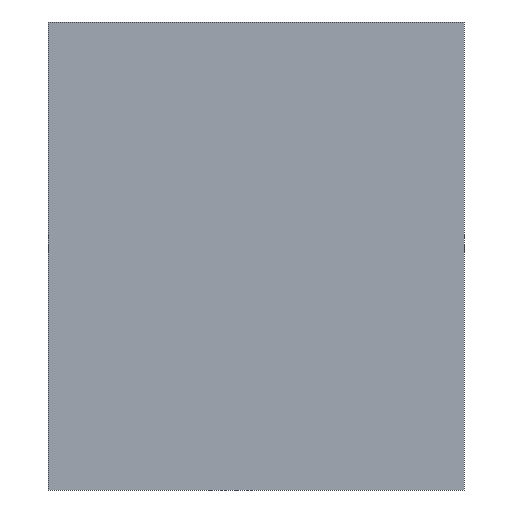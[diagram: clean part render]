
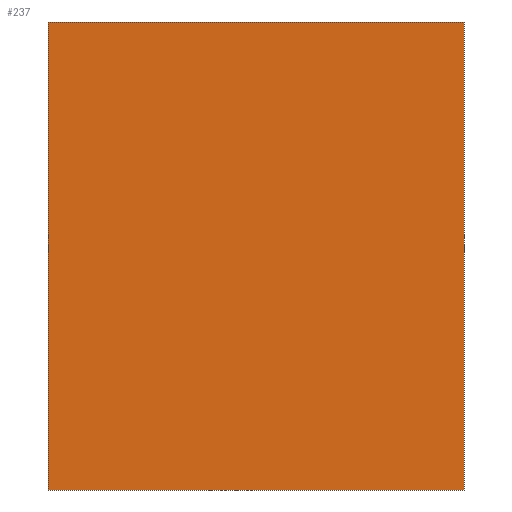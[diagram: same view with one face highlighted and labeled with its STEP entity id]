
A CAD part, front view. The second image highlights one B-rep face of the part: STEP entity #237.
In plain terms, the highlighted planar face has unit normal (0, -1, 0).
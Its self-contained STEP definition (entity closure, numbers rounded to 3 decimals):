
#21 = EDGE_CURVE('',#22,#24,#26,.T.);
#22 = VERTEX_POINT('',#23);
#23 = CARTESIAN_POINT('',(-186.,-171.913,18.));
#24 = VERTEX_POINT('',#25);
#25 = CARTESIAN_POINT('',(-186.,-171.913,36.));
#26 = SURFACE_CURVE('',#27,(#31,#43),.PCURVE_S1.);
#27 = LINE('',#28,#29);
#28 = CARTESIAN_POINT('',(-186.,-171.913,18.));
#29 = VECTOR('',#30,1.);
#30 = DIRECTION('',(0.,0.,1.));
#31 = PCURVE('',#32,#37);
#32 = PLANE('',#33);
#33 = AXIS2_PLACEMENT_3D('',#34,#35,#36);
#34 = CARTESIAN_POINT('',(-186.,-171.913,18.));
#35 = DIRECTION('',(1.,0.,-0.));
#36 = DIRECTION('',(0.,0.,1.));
#37 = DEFINITIONAL_REPRESENTATION('',(#38),#42);
#38 = LINE('',#39,#40);
#39 = CARTESIAN_POINT('',(0.,0.));
#40 = VECTOR('',#41,1.);
#41 = DIRECTION('',(1.,0.));
#42 = ( GEOMETRIC_REPRESENTATION_CONTEXT(2) 
PARAMETRIC_REPRESENTATION_CONTEXT() REPRESENTATION_CONTEXT('2D SPACE',''
  ) );
#43 = PCURVE('',#44,#49);
#44 = PLANE('',#45);
#45 = AXIS2_PLACEMENT_3D('',#46,#47,#48);
#46 = CARTESIAN_POINT('',(-186.,-171.913,18.));
#47 = DIRECTION('',(-0.,1.,0.));
#48 = DIRECTION('',(0.,0.,1.));
#49 = DEFINITIONAL_REPRESENTATION('',(#50),#54);
#50 = LINE('',#51,#52);
#51 = CARTESIAN_POINT('',(0.,0.));
#52 = VECTOR('',#53,1.);
#53 = DIRECTION('',(1.,0.));
#54 = ( GEOMETRIC_REPRESENTATION_CONTEXT(2) 
PARAMETRIC_REPRESENTATION_CONTEXT() REPRESENTATION_CONTEXT('2D SPACE',''
  ) );
#72 = PLANE('',#73);
#73 = AXIS2_PLACEMENT_3D('',#74,#75,#76);
#74 = CARTESIAN_POINT('',(-186.,-171.913,18.));
#75 = DIRECTION('',(0.,0.,1.));
#76 = DIRECTION('',(1.,0.,-0.));
#126 = PLANE('',#127);
#127 = AXIS2_PLACEMENT_3D('',#128,#129,#130);
#128 = CARTESIAN_POINT('',(-186.,-171.913,36.));
#129 = DIRECTION('',(0.,0.,1.));
#130 = DIRECTION('',(1.,0.,-0.));
#141 = EDGE_CURVE('',#142,#144,#146,.T.);
#142 = VERTEX_POINT('',#143);
#143 = CARTESIAN_POINT('',(-170.,-171.913,18.));
#144 = VERTEX_POINT('',#145);
#145 = CARTESIAN_POINT('',(-170.,-171.913,36.));
#146 = SURFACE_CURVE('',#147,(#151,#163),.PCURVE_S1.);
#147 = LINE('',#148,#149);
#148 = CARTESIAN_POINT('',(-170.,-171.913,18.));
#149 = VECTOR('',#150,1.);
#150 = DIRECTION('',(0.,0.,1.));
#151 = PCURVE('',#152,#157);
#152 = PLANE('',#153);
#153 = AXIS2_PLACEMENT_3D('',#154,#155,#156);
#154 = CARTESIAN_POINT('',(-170.,-171.913,18.));
#155 = DIRECTION('',(1.,0.,-0.));
#156 = DIRECTION('',(0.,0.,1.));
#157 = DEFINITIONAL_REPRESENTATION('',(#158),#162);
#158 = LINE('',#159,#160);
#159 = CARTESIAN_POINT('',(0.,0.));
#160 = VECTOR('',#161,1.);
#161 = DIRECTION('',(1.,0.));
#162 = ( GEOMETRIC_REPRESENTATION_CONTEXT(2) 
PARAMETRIC_REPRESENTATION_CONTEXT() REPRESENTATION_CONTEXT('2D SPACE',''
  ) );
#163 = PCURVE('',#44,#164);
#164 = DEFINITIONAL_REPRESENTATION('',(#165),#169);
#165 = LINE('',#166,#167);
#166 = CARTESIAN_POINT('',(0.,16.));
#167 = VECTOR('',#168,1.);
#168 = DIRECTION('',(1.,0.));
#169 = ( GEOMETRIC_REPRESENTATION_CONTEXT(2) 
PARAMETRIC_REPRESENTATION_CONTEXT() REPRESENTATION_CONTEXT('2D SPACE',''
  ) );
#237 = ADVANCED_FACE('',(#238),#44,.F.);
#238 = FACE_BOUND('',#239,.F.);
#239 = EDGE_LOOP('',(#240,#261,#262,#283));
#240 = ORIENTED_EDGE('',*,*,#241,.F.);
#241 = EDGE_CURVE('',#22,#142,#242,.T.);
#242 = SURFACE_CURVE('',#243,(#247,#254),.PCURVE_S1.);
#243 = LINE('',#244,#245);
#244 = CARTESIAN_POINT('',(-186.,-171.913,18.));
#245 = VECTOR('',#246,1.);
#246 = DIRECTION('',(1.,0.,-0.));
#247 = PCURVE('',#44,#248);
#248 = DEFINITIONAL_REPRESENTATION('',(#249),#253);
#249 = LINE('',#250,#251);
#250 = CARTESIAN_POINT('',(0.,0.));
#251 = VECTOR('',#252,1.);
#252 = DIRECTION('',(0.,1.));
#253 = ( GEOMETRIC_REPRESENTATION_CONTEXT(2) 
PARAMETRIC_REPRESENTATION_CONTEXT() REPRESENTATION_CONTEXT('2D SPACE',''
  ) );
#254 = PCURVE('',#72,#255);
#255 = DEFINITIONAL_REPRESENTATION('',(#256),#260);
#256 = LINE('',#257,#258);
#257 = CARTESIAN_POINT('',(0.,0.));
#258 = VECTOR('',#259,1.);
#259 = DIRECTION('',(1.,0.));
#260 = ( GEOMETRIC_REPRESENTATION_CONTEXT(2) 
PARAMETRIC_REPRESENTATION_CONTEXT() REPRESENTATION_CONTEXT('2D SPACE',''
  ) );
#261 = ORIENTED_EDGE('',*,*,#21,.T.);
#262 = ORIENTED_EDGE('',*,*,#263,.T.);
#263 = EDGE_CURVE('',#24,#144,#264,.T.);
#264 = SURFACE_CURVE('',#265,(#269,#276),.PCURVE_S1.);
#265 = LINE('',#266,#267);
#266 = CARTESIAN_POINT('',(-186.,-171.913,36.));
#267 = VECTOR('',#268,1.);
#268 = DIRECTION('',(1.,0.,-0.));
#269 = PCURVE('',#44,#270);
#270 = DEFINITIONAL_REPRESENTATION('',(#271),#275);
#271 = LINE('',#272,#273);
#272 = CARTESIAN_POINT('',(18.,0.));
#273 = VECTOR('',#274,1.);
#274 = DIRECTION('',(0.,1.));
#275 = ( GEOMETRIC_REPRESENTATION_CONTEXT(2) 
PARAMETRIC_REPRESENTATION_CONTEXT() REPRESENTATION_CONTEXT('2D SPACE',''
  ) );
#276 = PCURVE('',#126,#277);
#277 = DEFINITIONAL_REPRESENTATION('',(#278),#282);
#278 = LINE('',#279,#280);
#279 = CARTESIAN_POINT('',(0.,0.));
#280 = VECTOR('',#281,1.);
#281 = DIRECTION('',(1.,0.));
#282 = ( GEOMETRIC_REPRESENTATION_CONTEXT(2) 
PARAMETRIC_REPRESENTATION_CONTEXT() REPRESENTATION_CONTEXT('2D SPACE',''
  ) );
#283 = ORIENTED_EDGE('',*,*,#141,.F.);
